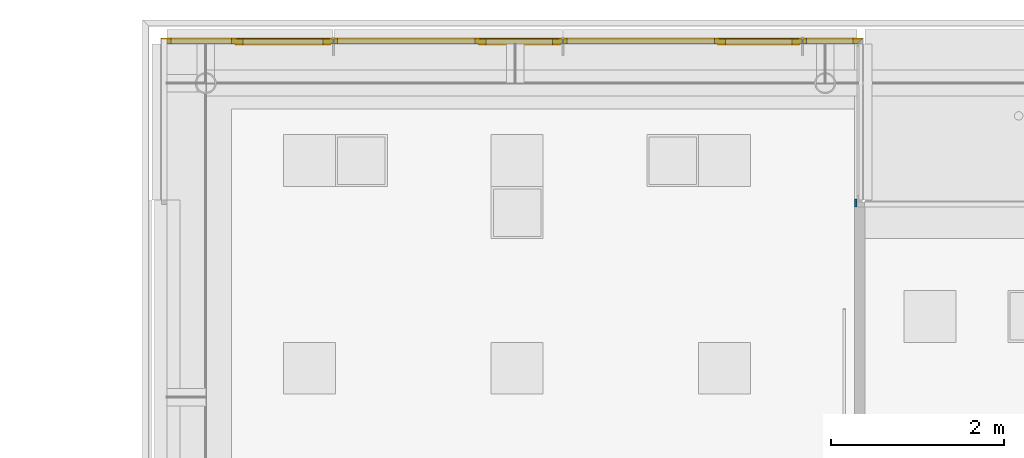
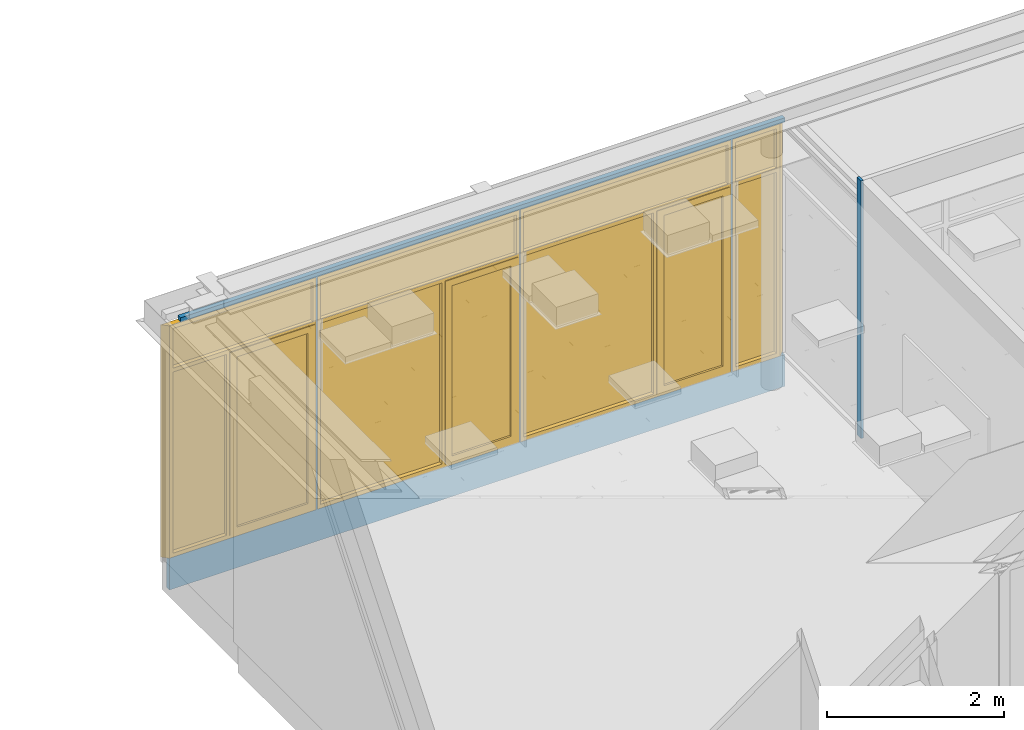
# One storey, part 80 of 347: 4 windows, 2 walls, 4 openings.
"""IFC2X3 building model written with IfcOpenShell, lengths in millimetres."""

from ifc_helpers import new_model, entity, si_unit, converted_unit, derived_unit, money_unit, direction, frame, origin_with_axes, place, context, subcontext, project, spatial, open_shell, faceted_brep, surface_model, material, type_object, element, fill, save


model = new_model("IFC2X3")

# Units and contexts
model_context = context("Model", 3, precision=0.01, world=origin_with_axes(), true_north=direction((0.0, 1.0)))
plan_context = context("Plan", 3, precision=0.01, world=origin_with_axes(), true_north=direction((0.0, 1.0)))
body_context = subcontext(model_context, "Body", "Model", "MODEL_VIEW")
ifc_project = project(units=[si_unit("LENGTHUNIT", "METRE", prefix="MILLI"), si_unit("AREAUNIT", "SQUARE_METRE"), si_unit("VOLUMEUNIT", "CUBIC_METRE"), converted_unit("PLANEANGLEUNIT", "DEGREE", entity("IfcPlaneAngleMeasure", 0.0174532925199), si_unit("PLANEANGLEUNIT", "RADIAN"), dimensions=[0, 0, 0, 0, 0, 0, 0]), money_unit("EUR"), converted_unit("TIMEUNIT", "Year", entity("IfcTimeMeasure", 31556926.0), si_unit("TIMEUNIT", "SECOND"), dimensions=[0, 0, 1, 0, 0, 0, 0]), si_unit("MASSUNIT", "GRAM", prefix="KILO"), si_unit("THERMODYNAMICTEMPERATUREUNIT", "DEGREE_CELSIUS"), si_unit("LUMINOUSINTENSITYUNIT", "LUMEN"), si_unit("ENERGYUNIT", "JOULE", prefix="MEGA"), derived_unit("THERMALCONDUCTANCEUNIT", [(si_unit("POWERUNIT", "WATT"), 1), (si_unit("LENGTHUNIT", "METRE"), -1), (si_unit("THERMODYNAMICTEMPERATUREUNIT", "KELVIN"), -1)]), derived_unit("SPECIFICHEATCAPACITYUNIT", [(si_unit("ENERGYUNIT", "JOULE"), 1), (si_unit("MASSUNIT", "GRAM", prefix="KILO"), -1), (si_unit("THERMODYNAMICTEMPERATUREUNIT", "KELVIN"), -1)]), derived_unit("MASSDENSITYUNIT", [(si_unit("MASSUNIT", "GRAM", prefix="KILO"), 1), (si_unit("VOLUMEUNIT", "CUBIC_METRE"), -1)])], contexts=[model_context, plan_context])

# Site, building, storey
site_placement = place(None, origin_with_axes())
site = spatial("IfcSite", under=ifc_project, at=site_placement, Name="Site", CompositionType="ELEMENT")
building_placement = place(site_placement, origin_with_axes())
building = spatial("IfcBuilding", under=site, at=building_placement, Name="Naam gebouw", CompositionType="ELEMENT")
storey_placement = place(building_placement, origin_with_axes())
storey = spatial("IfcBuildingStorey", under=building, at=storey_placement, Name="begane grond", CompositionType="ELEMENT", Elevation=0.0)

# Wall, openings, windows
ifc_material_1 = material(Name="31 pui/kozijn")
wall_type_1 = type_object("IfcWallType", Name="31 pui/kozijn 62", PredefinedType="NOTDEFINED")
wall_1_placement = place(storey_placement, frame((32108.0032564, 47036.9999775, -450.0), z_axis=(0.0, 0.0, 1.0), x_axis=(-1.0, 0.0, 0.0)))
wall_1 = element("IfcWall", 1, at=wall_1_placement, inside=storey, type_object=wall_type_1, material=ifc_material_1, Name="21_21 betonwand", context=body_context, shape_type="Brep", body=[
    faceted_brep([(0.0, 0.0, 3650.0), (625.50325641, 0.0, 3650.0), (625.50325641, -62.0, 3650.0), (-62.0, -62.0, 3650.0), (-62.0, 0.0, 3650.0), (-62.0, 0.0, 3710.0), (7833.00325641, 0.0, 3710.0), (7833.00325948, 0.0, 3650.0), (6063.50325641, 0.0, 3650.0), (6063.50325641, 0.0, 440.0), (7983.00325641, 0.0, 440.0), (7983.00325641, 0.0, 0.0), (-62.0, 0.0, 0.0), (-62.0, 0.0, 440.0), (0.0, 0.0, 440.0), (625.50325641, 0.0, 440.0), (6048.50325641, 0.0, 440.0), (6048.50325641, 0.0, 3650.0), (3408.50325641, 0.0, 3650.0), (3408.50325641, 0.0, 440.0), (640.50325641, 0.0, 440.0), (3393.50325641, 0.0, 440.0), (3393.50325641, 0.0, 3650.0), (640.50325641, 0.0, 3650.0), (625.50325641, -62.0, 440.0), (-62.0, -62.0, 440.0), (-62.0, -62.0, 0.0), (7983.00325641, -62.0, 0.0), (7983.00326044, -62.0, 440.0), (6063.50325641, -62.0, 440.0), (6063.50325641, -62.0, 3650.0), (7833.00325948, -62.0, 3650.0), (7833.00325641, -62.0, 3710.0), (-62.0, -62.0, 3710.0), (6048.50325641, -62.0, 440.0), (3408.50325641, -62.0, 440.0), (3408.50325641, -62.0, 3650.0), (6048.50325641, -62.0, 3650.0), (3393.50325641, -62.0, 3650.0), (3393.50325641, -62.0, 440.0), (640.50325641, -62.0, 440.0), (640.50325641, -62.0, 3650.0)], [[[0, 1, 2, 3, 4]], [[1, 0, 4, 5, 6, 7, 8, 9, 10, 11, 12, 13, 14, 15], [16, 17, 18, 19], [20, 21, 22, 23]], [[24, 2, 1, 15]], [[24, 25, 26, 27, 28, 29, 30, 31, 32, 33, 3, 2], [34, 35, 36, 37], [38, 39, 40, 41]], [[4, 3, 33, 5]], [[32, 6, 5, 33]], [[31, 7, 6, 32]], [[31, 30, 8, 7]], [[30, 29, 9, 8]], [[29, 28, 10, 9]], [[10, 28, 27, 11]], [[12, 11, 27, 26]], [[25, 13, 12, 26]], [[25, 24, 15, 14, 13]], [[34, 37, 17, 16]], [[37, 36, 18, 17]], [[36, 35, 19, 18]], [[35, 34, 16, 19]], [[20, 40, 39, 21]], [[21, 39, 38, 22]], [[22, 38, 41, 23]], [[23, 41, 40, 20]]]),
])
opening_1_placement = place(wall_1_placement, frame((7023.25325641, 0.0, 440.0), z_axis=(0.0, 0.0, 1.0), x_axis=(1.0, 0.0, 0.0)))
opening_1 = element("IfcOpeningElement", 2, at=opening_1_placement, cuts=wall_1, Name="32_merk-AN5", context=body_context, shape_type="Brep", body=[
    faceted_brep([(1021.75, -61.999999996, 3210.0), (1021.75, -134.0, 3210.0), (1021.75, -134.0, 0.0), (1021.75, -61.999999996, 0.0), (897.749999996, 62.0, 3210.0), (-959.75, 62.0, 3210.0), (-959.75, -134.0, 3210.0), (-959.75, -134.0, 0.0), (-959.75, 62.0, 0.0), (897.749999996, 62.0, 0.0)], [[[0, 1, 2, 3]], [[4, 5, 6, 1, 0]], [[2, 1, 6, 7]], [[8, 9, 3, 2, 7]], [[4, 0, 3, 9]], [[9, 8, 5, 4]], [[5, 8, 7, 6]]]),
])
opening_2_placement = place(wall_1_placement, frame((4728.50325641, 0.0, 440.0), z_axis=(0.0, 0.0, 1.0), x_axis=(1.0, 0.0, 0.0)))
opening_2 = element("IfcOpeningElement", 3, at=opening_2_placement, cuts=wall_1, Name="32_merk-AN4", context=body_context, shape_type="Brep", body=[
    faceted_brep([(1320.0, 62.0, 0.0), (1320.0, 62.0, 3210.0), (1320.0, -134.0, 3210.0), (1320.0, -134.0, 0.0), (-1320.0, 62.0, 0.0), (-1320.0, 62.0, 3210.0), (-1320.0, -134.0, 3210.0), (-1320.0, -134.0, 0.0)], [[[0, 1, 2, 3]], [[0, 4, 5, 1]], [[1, 5, 6, 2]], [[3, 2, 6, 7]], [[4, 0, 3, 7]], [[5, 4, 7, 6]]]),
])
opening_3_placement = place(wall_1_placement, frame((2017.00325641, 0.0, 440.0), z_axis=(0.0, 0.0, 1.0), x_axis=(1.0, 0.0, 0.0)))
opening_3 = element("IfcOpeningElement", 4, at=opening_3_placement, cuts=wall_1, Name="32_merk-AN3", context=body_context, shape_type="Brep", body=[
    faceted_brep([(1376.5, 62.0, 0.0), (1376.5, 62.0, 3210.0), (1376.5, -134.0, 3210.0), (1376.5, -134.0, 0.0), (-1376.5, 62.0, 0.0), (-1376.5, 62.0, 3210.0), (-1376.5, -134.0, 3210.0), (-1376.5, -134.0, 0.0)], [[[0, 1, 2, 3]], [[0, 4, 5, 1]], [[1, 5, 6, 2]], [[3, 2, 6, 7]], [[4, 0, 3, 7]], [[5, 4, 7, 6]]]),
])
opening_4_placement = place(wall_1_placement, frame((312.751628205, 0.0, 440.0), z_axis=(0.0, 0.0, 1.0), x_axis=(1.0, 0.0, 0.0)))
opening_4 = element("IfcOpeningElement", 5, at=opening_4_placement, cuts=wall_1, Name="32_merk-AN2", context=body_context, shape_type="Brep", body=[
    faceted_brep([(312.751628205, 62.0, 0.0), (312.751628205, 62.0, 3210.0), (312.751628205, -134.0, 3210.0), (312.751628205, -134.0, 0.0), (-250.751628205, 62.0, 0.0), (-250.751628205, 62.0, 3210.0), (-374.751628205, -62.0, 3210.0), (-374.751628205, -134.0, 3210.0), (-374.751628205, -134.0, 0.0), (-374.751628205, -62.0, 0.0)], [[[0, 1, 2, 3]], [[0, 4, 5, 1]], [[1, 5, 6, 7, 2]], [[3, 2, 7, 8]], [[4, 0, 3, 8, 9]], [[5, 4, 9, 6]], [[9, 8, 7, 6]]]),
])
window_style_1 = type_object("IfcWindowStyle", Name="Rmeerkeuze 25", ConstructionType="NOTDEFINED", OperationType="TRIPLE_PANEL_TOP", ParameterTakesPrecedence=False, Sizeable=False)
window_1_placement = place(opening_1_placement, frame((-959.75, 0.0, 0.0), z_axis=(0.0, 0.0, 1.0), x_axis=(1.0, 0.0, 0.0)))
window_1 = element("IfcWindow", 6, at=window_1_placement, inside=storey, type_object=window_style_1, Name="32_merk-AN5", ObjectType="WINDOW", OverallHeight=3210.0, OverallWidth=1919.5, context=body_context, shape_type="SurfaceModel", body=[
    faceted_brep([(24.0, 0.0, 54.0), (0.0, 0.0, 54.0), (0.0, 0.0, 3156.0), (39.0, 0.0, 3156.0), (39.0, 0.0, 2610.0), (39.0, 0.0, 2571.0), (24.0, 0.0, 2571.0), (24.0, -62.0, 54.0), (39.0, -62.0, 54.0), (39.0, -72.0, 54.0), (0.0, -72.0, 54.0), (0.0, -72.0, 3156.0), (39.0, -72.0, 3156.0), (39.0, -72.0, 2610.0), (39.0, -62.0, 2571.0), (39.0, -72.0, 2556.0), (39.0, -62.0, 2556.0), (24.0, -62.0, 2571.0)], [[[0, 1, 2, 3, 4, 5, 6]], [[7, 8, 9, 10, 1, 0]], [[2, 1, 10, 11]], [[3, 2, 11, 12]], [[4, 3, 12, 13]], [[14, 5, 4, 13, 15, 16]], [[14, 17, 6, 5]], [[6, 17, 7, 0]], [[16, 8, 7, 17, 14]], [[16, 15, 9, 8]], [[13, 12, 11, 10, 9, 15]]]),
    faceted_brep([(1115.5, -62.0, 2556.0), (1115.5, -72.0, 2556.0), (1169.5, -72.0, 2556.0), (1169.5, 0.0, 2556.0), (1130.5, 0.0, 2556.0), (1130.5, -62.0, 2556.0), (1115.5, -62.0, 54.0), (1115.5, -72.0, 54.0), (1169.5, -72.0, 54.0), (1169.5, 0.0, 54.0), (1130.5, 0.0, 54.0), (1130.5, -62.0, 54.0)], [[[0, 1, 2, 3, 4, 5]], [[6, 7, 1, 0]], [[8, 2, 1, 7]], [[9, 3, 2, 8]], [[4, 3, 9, 10]], [[10, 11, 5, 4]], [[5, 11, 6, 0]], [[11, 10, 9, 8, 7, 6]]]),
    faceted_brep([(1130.5, 0.0, 2571.0), (39.0, 0.0, 2571.0), (39.0, 0.0, 2610.0), (1870.5, 0.0, 2610.0), (1870.5, 0.0, 2556.0), (1169.5, 0.0, 2556.0), (1130.5, 0.0, 2556.0), (1130.5, -62.0, 2571.0), (39.0, -62.0, 2571.0), (39.0, -62.0, 2556.0), (39.0, -72.0, 2556.0), (39.0, -72.0, 2610.0), (1870.5, -72.0, 2610.0), (1870.5, -72.0, 2556.0), (1169.5, -72.0, 2556.0), (1130.5, -62.0, 2556.0), (1115.5, -72.0, 2556.0), (1115.5, -62.0, 2556.0)], [[[0, 1, 2, 3, 4, 5, 6]], [[0, 7, 8, 1]], [[8, 9, 10, 11, 2, 1]], [[3, 2, 11, 12]], [[4, 3, 12, 13]], [[5, 4, 13, 14]], [[15, 6, 5, 14, 16, 17]], [[6, 15, 7, 0]], [[17, 9, 8, 7, 15]], [[17, 16, 10, 9]], [[10, 16, 14, 13, 12, 11]]]),
    faceted_brep([(1115.5, -62.0, 54.0), (1115.5, -72.0, 54.0), (1169.5, -72.0, 54.0), (1169.5, 0.0, 54.0), (1130.5, 0.0, 54.0), (1130.5, -62.0, 54.0), (39.0, -62.0, 54.0), (39.0, -72.0, 54.0), (0.0, -72.0, 54.0), (0.0, -72.0, 0.0), (1991.5, -72.0, 0.0), (1991.5, -72.0, 54.0), (1870.5, -72.0, 54.0), (1870.5, 0.0, 54.0), (24.0, 0.0, 39.0), (1130.5, 0.0, 39.0), (1919.5, 0.0, 54.0), (1919.5, 0.0, 0.0), (0.0, 0.0, 0.0), (0.0, 0.0, 54.0), (24.0, 0.0, 54.0), (1130.5, -62.0, 39.0), (24.0, -62.0, 39.0), (24.0, -62.0, 54.0)], [[[0, 1, 2, 3, 4, 5]], [[6, 7, 1, 0]], [[8, 9, 10, 11, 12, 2, 1, 7]], [[13, 3, 2, 12]], [[14, 15, 4, 3, 13, 16, 17, 18, 19, 20]], [[15, 21, 5, 4]], [[5, 21, 22, 23, 6, 0]], [[23, 20, 19, 8, 7, 6]], [[19, 18, 9, 8]], [[18, 17, 10, 9]], [[16, 11, 10, 17]], [[11, 16, 13, 12]], [[14, 22, 21, 15]], [[23, 22, 14, 20]]]),
    faceted_brep([(1870.5, -72.0, 54.0), (1870.5, -72.0, 2556.0), (1870.5, 0.0, 2556.0), (1870.5, 0.0, 54.0), (1870.5, -72.0, 2610.0), (1991.5, -72.0, 54.0), (1991.5, -72.0, 3156.0), (1870.5, -72.0, 3156.0), (1870.5, 0.0, 2610.0), (1919.5, 0.0, 54.0), (1870.5, 0.0, 3156.0), (1919.5, 0.0, 3156.0)], [[[0, 1, 2, 3]], [[4, 1, 0, 5, 6, 7]], [[1, 4, 8, 2]], [[9, 3, 2, 8, 10, 11]], [[3, 9, 5, 0]], [[5, 9, 11, 6]], [[11, 10, 7, 6]], [[4, 7, 10, 8]]]),
    faceted_brep([(0.0, 0.0, 3156.0), (39.0, 0.0, 3156.0), (39.0, -72.0, 3156.0), (0.0, -72.0, 3156.0), (0.0, 0.0, 3210.0), (1919.5, 0.0, 3210.0), (1919.5, 0.0, 3156.0), (1870.5, 0.0, 3156.0), (1870.5, -72.0, 3156.0), (1991.5, -72.0, 3156.0), (1991.5, -72.0, 3210.0), (0.0, -72.0, 3210.0)], [[[0, 1, 2, 3]], [[1, 0, 4, 5, 6, 7]], [[8, 2, 1, 7]], [[3, 2, 8, 9, 10, 11]], [[4, 0, 3, 11]], [[4, 11, 10, 5]], [[10, 9, 6, 5]], [[7, 6, 9, 8]]]),
    surface_model("IfcShellBasedSurfaceModel", [(39.0, -72.0, 2610.0), (1870.5, -72.0, 2610.0), (1870.5, -72.0, 3156.0), (39.0, -72.0, 3156.0)], [open_shell([[[0, 1, 2, 3]]])]),
    surface_model("IfcShellBasedSurfaceModel", [(39.0, -52.0, 2610.0), (39.0, -52.0, 3156.0), (1870.5, -52.0, 3156.0), (1870.5, -52.0, 2610.0)], [open_shell([[[0, 1, 2, 3]]])]),
    faceted_brep([(114.0, -62.0, 2481.0), (114.0, 10.0, 2481.0), (24.0, 10.0, 2481.0), (24.0, -62.0, 2481.0), (114.0, -62.0, 129.0), (114.0, 10.0, 129.0), (24.0, 10.0, 129.0), (24.0, -62.0, 129.0)], [[[0, 1, 2, 3]], [[4, 5, 1, 0]], [[1, 5, 6, 2]], [[3, 2, 6, 7]], [[0, 3, 7, 4]], [[7, 6, 5, 4]]]),
    faceted_brep([(1040.5, -62.0, 129.0), (1040.5, 10.0, 129.0), (1130.5, 10.0, 129.0), (1130.5, -62.0, 129.0), (1040.5, -62.0, 2481.0), (1040.5, 10.0, 2481.0), (1130.5, 10.0, 2481.0), (1130.5, -62.0, 2481.0)], [[[0, 1, 2, 3]], [[4, 5, 1, 0]], [[1, 5, 6, 2]], [[3, 2, 6, 7]], [[0, 3, 7, 4]], [[7, 6, 5, 4]]]),
    faceted_brep([(1130.5, -62.0, 39.0), (1130.5, 10.0, 39.0), (1130.5, 10.0, 129.0), (1130.5, -62.0, 129.0), (24.0, -62.0, 39.0), (24.0, 10.0, 39.0), (24.0, 10.0, 129.0), (114.0, 10.0, 129.0), (1040.5, 10.0, 129.0), (1040.5, -62.0, 129.0), (114.0, -62.0, 129.0), (24.0, -62.0, 129.0)], [[[0, 1, 2, 3]], [[4, 5, 1, 0]], [[1, 5, 6, 7, 8, 2]], [[3, 2, 8, 9]], [[0, 3, 9, 10, 11, 4]], [[11, 6, 5, 4]], [[10, 7, 6, 11]], [[9, 8, 7, 10]]]),
    faceted_brep([(24.0, -62.0, 2571.0), (24.0, 10.0, 2571.0), (24.0, 10.0, 2481.0), (24.0, -62.0, 2481.0), (1130.5, -62.0, 2571.0), (1130.5, 10.0, 2571.0), (1130.5, 10.0, 2481.0), (1040.5, 10.0, 2481.0), (114.0, 10.0, 2481.0), (114.0, -62.0, 2481.0), (1040.5, -62.0, 2481.0), (1130.5, -62.0, 2481.0)], [[[0, 1, 2, 3]], [[4, 5, 1, 0]], [[1, 5, 6, 7, 8, 2]], [[3, 2, 8, 9]], [[0, 3, 9, 10, 11, 4]], [[11, 6, 5, 4]], [[10, 7, 6, 11]], [[9, 8, 7, 10]]]),
    surface_model("IfcShellBasedSurfaceModel", [(114.0, -36.0, 129.0), (1040.5, -36.0, 129.0), (1040.5, -36.0, 2481.0), (114.0, -36.0, 2481.0)], [open_shell([[[0, 1, 2, 3]]])]),
    surface_model("IfcShellBasedSurfaceModel", [(114.0, -16.0, 129.0), (114.0, -16.0, 2481.0), (1040.5, -16.0, 2481.0), (1040.5, -16.0, 129.0)], [open_shell([[[0, 1, 2, 3]]])]),
    surface_model("IfcShellBasedSurfaceModel", [(1169.5, -72.0, 54.0), (1870.5, -72.0, 54.0), (1870.5, -72.0, 2556.0), (1169.5, -72.0, 2556.0)], [open_shell([[[0, 1, 2, 3]]])]),
    surface_model("IfcShellBasedSurfaceModel", [(1169.5, -52.0, 54.0), (1169.5, -52.0, 2556.0), (1870.5, -52.0, 2556.0), (1870.5, -52.0, 54.0)], [open_shell([[[0, 1, 2, 3]]])]),
])
fill(opening_1, window_1)
window_style_2 = type_object("IfcWindowStyle", Name="Rmeerkeuze 25", ConstructionType="NOTDEFINED", OperationType="TRIPLE_PANEL_TOP", ParameterTakesPrecedence=False, Sizeable=False)
window_2_placement = place(opening_2_placement, frame((-1320.0, 0.0, 0.0), z_axis=(0.0, 0.0, 1.0), x_axis=(1.0, 0.0, 0.0)))
window_2 = element("IfcWindow", 7, at=window_2_placement, inside=storey, type_object=window_style_2, Name="32_merk-AN4", ObjectType="WINDOW", OverallHeight=3210.0, OverallWidth=2640.0, context=body_context, shape_type="SurfaceModel", body=[
    faceted_brep([(24.0, 0.0, 54.0), (0.0, 0.0, 54.0), (0.0, 0.0, 3156.0), (39.0, 0.0, 3156.0), (39.0, 0.0, 2610.0), (39.0, 0.0, 2571.0), (24.0, 0.0, 2571.0), (24.0, -62.0, 54.0), (39.0, -62.0, 54.0), (39.0, -72.0, 54.0), (0.0, -72.0, 54.0), (0.0, -72.0, 3156.0), (39.0, -72.0, 3156.0), (39.0, -72.0, 2610.0), (39.0, -62.0, 2571.0), (39.0, -72.0, 2556.0), (39.0, -62.0, 2556.0), (24.0, -62.0, 2571.0)], [[[0, 1, 2, 3, 4, 5, 6]], [[7, 8, 9, 10, 1, 0]], [[2, 1, 10, 11]], [[3, 2, 11, 12]], [[4, 3, 12, 13]], [[14, 5, 4, 13, 15, 16]], [[14, 17, 6, 5]], [[6, 17, 7, 0]], [[16, 8, 7, 17, 14]], [[16, 15, 9, 8]], [[13, 12, 11, 10, 9, 15]]]),
    faceted_brep([(958.0, -62.0, 2556.0), (958.0, -72.0, 2556.0), (1012.0, -72.0, 2556.0), (1012.0, 0.0, 2556.0), (973.0, 0.0, 2556.0), (973.0, -62.0, 2556.0), (958.0, -62.0, 54.0), (958.0, -72.0, 54.0), (1012.0, -72.0, 54.0), (1012.0, 0.0, 54.0), (973.0, 0.0, 54.0), (973.0, -62.0, 54.0)], [[[0, 1, 2, 3, 4, 5]], [[6, 7, 1, 0]], [[8, 2, 1, 7]], [[9, 3, 2, 8]], [[4, 3, 9, 10]], [[10, 11, 5, 4]], [[5, 11, 6, 0]], [[11, 10, 9, 8, 7, 6]]]),
    faceted_brep([(973.0, 0.0, 2571.0), (39.0, 0.0, 2571.0), (39.0, 0.0, 2610.0), (2601.0, 0.0, 2610.0), (2601.0, 0.0, 2556.0), (1012.0, 0.0, 2556.0), (973.0, 0.0, 2556.0), (973.0, -62.0, 2571.0), (39.0, -62.0, 2571.0), (39.0, -62.0, 2556.0), (39.0, -72.0, 2556.0), (39.0, -72.0, 2610.0), (2601.0, -72.0, 2610.0), (2601.0, -72.0, 2556.0), (1012.0, -72.0, 2556.0), (973.0, -62.0, 2556.0), (958.0, -72.0, 2556.0), (958.0, -62.0, 2556.0)], [[[0, 1, 2, 3, 4, 5, 6]], [[0, 7, 8, 1]], [[8, 9, 10, 11, 2, 1]], [[3, 2, 11, 12]], [[4, 3, 12, 13]], [[5, 4, 13, 14]], [[15, 6, 5, 14, 16, 17]], [[6, 15, 7, 0]], [[17, 9, 8, 7, 15]], [[17, 16, 10, 9]], [[10, 16, 14, 13, 12, 11]]]),
    faceted_brep([(958.0, -62.0, 54.0), (958.0, -72.0, 54.0), (1012.0, -72.0, 54.0), (1012.0, 0.0, 54.0), (973.0, 0.0, 54.0), (973.0, -62.0, 54.0), (39.0, -62.0, 54.0), (39.0, -72.0, 54.0), (0.0, -72.0, 54.0), (0.0, -72.0, 0.0), (2640.0, -72.0, 0.0), (2640.0, -72.0, 54.0), (2601.0, -72.0, 54.0), (2601.0, 0.0, 54.0), (24.0, 0.0, 39.0), (973.0, 0.0, 39.0), (2640.0, 0.0, 54.0), (2640.0, 0.0, 0.0), (0.0, 0.0, 0.0), (0.0, 0.0, 54.0), (24.0, 0.0, 54.0), (973.0, -62.0, 39.0), (24.0, -62.0, 39.0), (24.0, -62.0, 54.0)], [[[0, 1, 2, 3, 4, 5]], [[6, 7, 1, 0]], [[8, 9, 10, 11, 12, 2, 1, 7]], [[13, 3, 2, 12]], [[14, 15, 4, 3, 13, 16, 17, 18, 19, 20]], [[15, 21, 5, 4]], [[5, 21, 22, 23, 6, 0]], [[23, 20, 19, 8, 7, 6]], [[19, 18, 9, 8]], [[18, 17, 10, 9]], [[17, 16, 11, 10]], [[16, 13, 12, 11]], [[14, 22, 21, 15]], [[23, 22, 14, 20]]]),
    faceted_brep([(2601.0, -72.0, 54.0), (2601.0, 0.0, 54.0), (2640.0, 0.0, 54.0), (2640.0, -72.0, 54.0), (2601.0, -72.0, 2556.0), (2601.0, 0.0, 2556.0), (2601.0, 0.0, 2610.0), (2601.0, 0.0, 3156.0), (2640.0, 0.0, 3156.0), (2640.0, -72.0, 3156.0), (2601.0, -72.0, 3156.0), (2601.0, -72.0, 2610.0)], [[[0, 1, 2, 3]], [[4, 5, 1, 0]], [[1, 5, 6, 7, 8, 2]], [[3, 2, 8, 9]], [[0, 3, 9, 10, 11, 4]], [[11, 6, 5, 4]], [[10, 7, 6, 11]], [[9, 8, 7, 10]]]),
    faceted_brep([(2601.0, -72.0, 3156.0), (2601.0, 0.0, 3156.0), (2640.0, 0.0, 3156.0), (2640.0, -72.0, 3156.0), (39.0, -72.0, 3156.0), (39.0, 0.0, 3156.0), (0.0, 0.0, 3156.0), (0.0, 0.0, 3210.0), (2640.0, 0.0, 3210.0), (2640.0, -72.0, 3210.0), (0.0, -72.0, 3210.0), (0.0, -72.0, 3156.0)], [[[0, 1, 2, 3]], [[4, 5, 1, 0]], [[1, 5, 6, 7, 8, 2]], [[3, 2, 8, 9]], [[0, 3, 9, 10, 11, 4]], [[11, 6, 5, 4]], [[10, 7, 6, 11]], [[9, 8, 7, 10]]]),
    surface_model("IfcShellBasedSurfaceModel", [(39.0, -72.0, 2610.0), (2601.0, -72.0, 2610.0), (2601.0, -72.0, 3156.0), (39.0, -72.0, 3156.0)], [open_shell([[[0, 1, 2, 3]]])]),
    surface_model("IfcShellBasedSurfaceModel", [(39.0, -52.0, 2610.0), (39.0, -52.0, 3156.0), (2601.0, -52.0, 3156.0), (2601.0, -52.0, 2610.0)], [open_shell([[[0, 1, 2, 3]]])]),
    faceted_brep([(114.0, -62.0, 2481.0), (114.0, 10.0, 2481.0), (24.0, 10.0, 2481.0), (24.0, -62.0, 2481.0), (114.0, -62.0, 129.0), (114.0, 10.0, 129.0), (24.0, 10.0, 129.0), (24.0, -62.0, 129.0)], [[[0, 1, 2, 3]], [[4, 5, 1, 0]], [[1, 5, 6, 2]], [[3, 2, 6, 7]], [[0, 3, 7, 4]], [[7, 6, 5, 4]]]),
    faceted_brep([(883.0, -62.0, 129.0), (883.0, 10.0, 129.0), (973.0, 10.0, 129.0), (973.0, -62.0, 129.0), (883.0, -62.0, 2481.0), (883.0, 10.0, 2481.0), (973.0, 10.0, 2481.0), (973.0, -62.0, 2481.0)], [[[0, 1, 2, 3]], [[4, 5, 1, 0]], [[1, 5, 6, 2]], [[3, 2, 6, 7]], [[0, 3, 7, 4]], [[7, 6, 5, 4]]]),
    faceted_brep([(973.0, -62.0, 39.0), (973.0, 10.0, 39.0), (973.0, 10.0, 129.0), (973.0, -62.0, 129.0), (24.0, -62.0, 39.0), (24.0, 10.0, 39.0), (24.0, 10.0, 129.0), (114.0, 10.0, 129.0), (883.0, 10.0, 129.0), (883.0, -62.0, 129.0), (114.0, -62.0, 129.0), (24.0, -62.0, 129.0)], [[[0, 1, 2, 3]], [[4, 5, 1, 0]], [[1, 5, 6, 7, 8, 2]], [[3, 2, 8, 9]], [[0, 3, 9, 10, 11, 4]], [[11, 6, 5, 4]], [[10, 7, 6, 11]], [[9, 8, 7, 10]]]),
    faceted_brep([(24.0, -62.0, 2571.0), (24.0, 10.0, 2571.0), (24.0, 10.0, 2481.0), (24.0, -62.0, 2481.0), (973.0, -62.0, 2571.0), (973.0, 10.0, 2571.0), (973.0, 10.0, 2481.0), (883.0, 10.0, 2481.0), (114.0, 10.0, 2481.0), (114.0, -62.0, 2481.0), (883.0, -62.0, 2481.0), (973.0, -62.0, 2481.0)], [[[0, 1, 2, 3]], [[4, 5, 1, 0]], [[1, 5, 6, 7, 8, 2]], [[3, 2, 8, 9]], [[0, 3, 9, 10, 11, 4]], [[11, 6, 5, 4]], [[10, 7, 6, 11]], [[9, 8, 7, 10]]]),
    surface_model("IfcShellBasedSurfaceModel", [(114.0, -36.0, 129.0), (883.0, -36.0, 129.0), (883.0, -36.0, 2481.0), (114.0, -36.0, 2481.0)], [open_shell([[[0, 1, 2, 3]]])]),
    surface_model("IfcShellBasedSurfaceModel", [(114.0, -16.0, 129.0), (114.0, -16.0, 2481.0), (883.0, -16.0, 2481.0), (883.0, -16.0, 129.0)], [open_shell([[[0, 1, 2, 3]]])]),
    surface_model("IfcShellBasedSurfaceModel", [(1012.0, -72.0, 54.0), (2601.0, -72.0, 54.0), (2601.0, -72.0, 2556.0), (1012.0, -72.0, 2556.0)], [open_shell([[[0, 1, 2, 3]]])]),
    surface_model("IfcShellBasedSurfaceModel", [(1012.0, -52.0, 54.0), (1012.0, -52.0, 2556.0), (2601.0, -52.0, 2556.0), (2601.0, -52.0, 54.0)], [open_shell([[[0, 1, 2, 3]]])]),
])
fill(opening_2, window_2)
window_style_3 = type_object("IfcWindowStyle", Name="Rmeerkeuze 25", ConstructionType="NOTDEFINED", OperationType="TRIPLE_PANEL_TOP", ParameterTakesPrecedence=False, Sizeable=False)
window_3_placement = place(opening_3_placement, frame((-1376.5, 0.0, 0.0), z_axis=(0.0, 0.0, 1.0), x_axis=(1.0, 0.0, 0.0)))
window_3 = element("IfcWindow", 8, at=window_3_placement, inside=storey, type_object=window_style_3, Name="32_merk-AN3", ObjectType="WINDOW", OverallHeight=3210.0, OverallWidth=2753.0, context=body_context, shape_type="SurfaceModel", body=[
    faceted_brep([(24.0, 0.0, 54.0), (0.0, 0.0, 54.0), (0.0, 0.0, 3156.0), (39.0, 0.0, 3156.0), (39.0, 0.0, 2610.0), (39.0, 0.0, 2571.0), (24.0, 0.0, 2571.0), (24.0, -62.0, 54.0), (39.0, -62.0, 54.0), (39.0, -72.0, 54.0), (0.0, -72.0, 54.0), (0.0, -72.0, 3156.0), (39.0, -72.0, 3156.0), (39.0, -72.0, 2610.0), (39.0, -62.0, 2571.0), (39.0, -72.0, 2556.0), (39.0, -62.0, 2556.0), (24.0, -62.0, 2571.0)], [[[0, 1, 2, 3, 4, 5, 6]], [[7, 8, 9, 10, 1, 0]], [[2, 1, 10, 11]], [[3, 2, 11, 12]], [[4, 3, 12, 13]], [[14, 5, 4, 13, 15, 16]], [[14, 17, 6, 5]], [[6, 17, 7, 0]], [[16, 8, 7, 17, 14]], [[16, 15, 9, 8]], [[13, 12, 11, 10, 9, 15]]]),
    faceted_brep([(958.0, -62.0, 2556.0), (958.0, -72.0, 2556.0), (1012.0, -72.0, 2556.0), (1012.0, 0.0, 2556.0), (973.0, 0.0, 2556.0), (973.0, -62.0, 2556.0), (958.0, -62.0, 54.0), (958.0, -72.0, 54.0), (1012.0, -72.0, 54.0), (1012.0, 0.0, 54.0), (973.0, 0.0, 54.0), (973.0, -62.0, 54.0)], [[[0, 1, 2, 3, 4, 5]], [[6, 7, 1, 0]], [[8, 2, 1, 7]], [[9, 3, 2, 8]], [[4, 3, 9, 10]], [[10, 11, 5, 4]], [[5, 11, 6, 0]], [[11, 10, 9, 8, 7, 6]]]),
    faceted_brep([(973.0, 0.0, 2571.0), (39.0, 0.0, 2571.0), (39.0, 0.0, 2610.0), (2714.0, 0.0, 2610.0), (2714.0, 0.0, 2556.0), (1012.0, 0.0, 2556.0), (973.0, 0.0, 2556.0), (973.0, -62.0, 2571.0), (39.0, -62.0, 2571.0), (39.0, -62.0, 2556.0), (39.0, -72.0, 2556.0), (39.0, -72.0, 2610.0), (2714.0, -72.0, 2610.0), (2714.0, -72.0, 2556.0), (1012.0, -72.0, 2556.0), (973.0, -62.0, 2556.0), (958.0, -72.0, 2556.0), (958.0, -62.0, 2556.0)], [[[0, 1, 2, 3, 4, 5, 6]], [[0, 7, 8, 1]], [[8, 9, 10, 11, 2, 1]], [[3, 2, 11, 12]], [[4, 3, 12, 13]], [[5, 4, 13, 14]], [[15, 6, 5, 14, 16, 17]], [[6, 15, 7, 0]], [[17, 9, 8, 7, 15]], [[17, 16, 10, 9]], [[10, 16, 14, 13, 12, 11]]]),
    faceted_brep([(958.0, -62.0, 54.0), (958.0, -72.0, 54.0), (1012.0, -72.0, 54.0), (1012.0, 0.0, 54.0), (973.0, 0.0, 54.0), (973.0, -62.0, 54.0), (39.0, -62.0, 54.0), (39.0, -72.0, 54.0), (0.0, -72.0, 54.0), (0.0, -72.0, 0.0), (2753.0, -72.0, 0.0), (2753.0, -72.0, 54.0), (2714.0, -72.0, 54.0), (2714.0, 0.0, 54.0), (24.0, 0.0, 39.0), (973.0, 0.0, 39.0), (2753.0, 0.0, 54.0), (2753.0, 0.0, 0.0), (0.0, 0.0, 0.0), (0.0, 0.0, 54.0), (24.0, 0.0, 54.0), (973.0, -62.0, 39.0), (24.0, -62.0, 39.0), (24.0, -62.0, 54.0)], [[[0, 1, 2, 3, 4, 5]], [[6, 7, 1, 0]], [[8, 9, 10, 11, 12, 2, 1, 7]], [[13, 3, 2, 12]], [[14, 15, 4, 3, 13, 16, 17, 18, 19, 20]], [[15, 21, 5, 4]], [[5, 21, 22, 23, 6, 0]], [[23, 20, 19, 8, 7, 6]], [[19, 18, 9, 8]], [[18, 17, 10, 9]], [[17, 16, 11, 10]], [[16, 13, 12, 11]], [[14, 22, 21, 15]], [[23, 22, 14, 20]]]),
    faceted_brep([(2714.0, -72.0, 54.0), (2714.0, 0.0, 54.0), (2753.0, 0.0, 54.0), (2753.0, -72.0, 54.0), (2714.0, -72.0, 2556.0), (2714.0, 0.0, 2556.0), (2714.0, 0.0, 2610.0), (2714.0, 0.0, 3156.0), (2753.0, 0.0, 3156.0), (2753.0, -72.0, 3156.0), (2714.0, -72.0, 3156.0), (2714.0, -72.0, 2610.0)], [[[0, 1, 2, 3]], [[4, 5, 1, 0]], [[1, 5, 6, 7, 8, 2]], [[3, 2, 8, 9]], [[0, 3, 9, 10, 11, 4]], [[11, 6, 5, 4]], [[10, 7, 6, 11]], [[9, 8, 7, 10]]]),
    faceted_brep([(2714.0, -72.0, 3156.0), (2714.0, 0.0, 3156.0), (2753.0, 0.0, 3156.0), (2753.0, -72.0, 3156.0), (39.0, -72.0, 3156.0), (39.0, 0.0, 3156.0), (0.0, 0.0, 3156.0), (0.0, 0.0, 3210.0), (2753.0, 0.0, 3210.0), (2753.0, -72.0, 3210.0), (0.0, -72.0, 3210.0), (0.0, -72.0, 3156.0)], [[[0, 1, 2, 3]], [[4, 5, 1, 0]], [[1, 5, 6, 7, 8, 2]], [[3, 2, 8, 9]], [[0, 3, 9, 10, 11, 4]], [[11, 6, 5, 4]], [[10, 7, 6, 11]], [[9, 8, 7, 10]]]),
    surface_model("IfcShellBasedSurfaceModel", [(39.0, -72.0, 2610.0), (2714.0, -72.0, 2610.0), (2714.0, -72.0, 3156.0), (39.0, -72.0, 3156.0)], [open_shell([[[0, 1, 2, 3]]])]),
    surface_model("IfcShellBasedSurfaceModel", [(39.0, -52.0, 2610.0), (39.0, -52.0, 3156.0), (2714.0, -52.0, 3156.0), (2714.0, -52.0, 2610.0)], [open_shell([[[0, 1, 2, 3]]])]),
    faceted_brep([(114.0, -62.0, 2481.0), (114.0, 10.0, 2481.0), (24.0, 10.0, 2481.0), (24.0, -62.0, 2481.0), (114.0, -62.0, 129.0), (114.0, 10.0, 129.0), (24.0, 10.0, 129.0), (24.0, -62.0, 129.0)], [[[0, 1, 2, 3]], [[4, 5, 1, 0]], [[1, 5, 6, 2]], [[3, 2, 6, 7]], [[0, 3, 7, 4]], [[7, 6, 5, 4]]]),
    faceted_brep([(883.0, -62.0, 129.0), (883.0, 10.0, 129.0), (973.0, 10.0, 129.0), (973.0, -62.0, 129.0), (883.0, -62.0, 2481.0), (883.0, 10.0, 2481.0), (973.0, 10.0, 2481.0), (973.0, -62.0, 2481.0)], [[[0, 1, 2, 3]], [[4, 5, 1, 0]], [[1, 5, 6, 2]], [[3, 2, 6, 7]], [[0, 3, 7, 4]], [[7, 6, 5, 4]]]),
    faceted_brep([(973.0, -62.0, 39.0), (973.0, 10.0, 39.0), (973.0, 10.0, 129.0), (973.0, -62.0, 129.0), (24.0, -62.0, 39.0), (24.0, 10.0, 39.0), (24.0, 10.0, 129.0), (114.0, 10.0, 129.0), (883.0, 10.0, 129.0), (883.0, -62.0, 129.0), (114.0, -62.0, 129.0), (24.0, -62.0, 129.0)], [[[0, 1, 2, 3]], [[4, 5, 1, 0]], [[1, 5, 6, 7, 8, 2]], [[3, 2, 8, 9]], [[0, 3, 9, 10, 11, 4]], [[11, 6, 5, 4]], [[10, 7, 6, 11]], [[9, 8, 7, 10]]]),
    faceted_brep([(24.0, -62.0, 2571.0), (24.0, 10.0, 2571.0), (24.0, 10.0, 2481.0), (24.0, -62.0, 2481.0), (973.0, -62.0, 2571.0), (973.0, 10.0, 2571.0), (973.0, 10.0, 2481.0), (883.0, 10.0, 2481.0), (114.0, 10.0, 2481.0), (114.0, -62.0, 2481.0), (883.0, -62.0, 2481.0), (973.0, -62.0, 2481.0)], [[[0, 1, 2, 3]], [[4, 5, 1, 0]], [[1, 5, 6, 7, 8, 2]], [[3, 2, 8, 9]], [[0, 3, 9, 10, 11, 4]], [[11, 6, 5, 4]], [[10, 7, 6, 11]], [[9, 8, 7, 10]]]),
    surface_model("IfcShellBasedSurfaceModel", [(114.0, -36.0, 129.0), (883.0, -36.0, 129.0), (883.0, -36.0, 2481.0), (114.0, -36.0, 2481.0)], [open_shell([[[0, 1, 2, 3]]])]),
    surface_model("IfcShellBasedSurfaceModel", [(114.0, -16.0, 129.0), (114.0, -16.0, 2481.0), (883.0, -16.0, 2481.0), (883.0, -16.0, 129.0)], [open_shell([[[0, 1, 2, 3]]])]),
    surface_model("IfcShellBasedSurfaceModel", [(1012.0, -72.0, 54.0), (2714.0, -72.0, 54.0), (2714.0, -72.0, 2556.0), (1012.0, -72.0, 2556.0)], [open_shell([[[0, 1, 2, 3]]])]),
    surface_model("IfcShellBasedSurfaceModel", [(1012.0, -52.0, 54.0), (1012.0, -52.0, 2556.0), (2714.0, -52.0, 2556.0), (2714.0, -52.0, 54.0)], [open_shell([[[0, 1, 2, 3]]])]),
])
fill(opening_3, window_3)
window_style_4 = type_object("IfcWindowStyle", Name="Rmeerkeuze 25", ConstructionType="NOTDEFINED", OperationType="DOUBLE_PANEL_HORIZONTAL", ParameterTakesPrecedence=False, Sizeable=False)
window_4_placement = place(opening_4_placement, frame((-312.751628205, 0.0, 0.0), z_axis=(0.0, 0.0, 1.0), x_axis=(1.0, 0.0, 0.0)))
window_4 = element("IfcWindow", 9, at=window_4_placement, inside=storey, type_object=window_style_4, Name="32_merk-AN2", ObjectType="WINDOW", OverallHeight=3210.0, OverallWidth=625.503, context=body_context, shape_type="SurfaceModel", body=[
    faceted_brep([(-72.0, -72.0, 54.0), (49.0, -72.0, 54.0), (49.0, -72.0, 2556.0), (49.0, -72.0, 2610.0), (49.0, -72.0, 3156.0), (-72.0, -72.0, 3156.0), (0.0, 0.0, 54.0), (49.0, 0.0, 54.0), (49.0, 0.0, 2556.0), (49.0, 0.0, 2610.0), (49.0, 0.0, 3156.0), (0.0, 0.0, 3156.0)], [[[0, 1, 2, 3, 4, 5]], [[0, 6, 7, 1]], [[2, 1, 7, 8]], [[3, 2, 8, 9]], [[4, 3, 9, 10]], [[5, 4, 10, 11]], [[6, 0, 5, 11]], [[6, 11, 10, 9, 8, 7]]]),
    faceted_brep([(586.50325641, -72.0, 54.0), (586.50325641, 0.0, 54.0), (625.50325641, 0.0, 54.0), (625.50325641, -72.0, 54.0), (586.50325641, -72.0, 2556.0), (586.50325641, 0.0, 2556.0), (586.50325641, 0.0, 2610.0), (586.50325641, 0.0, 3156.0), (625.50325641, 0.0, 3156.0), (625.50325641, -72.0, 3156.0), (586.50325641, -72.0, 3156.0), (586.50325641, -72.0, 2610.0)], [[[0, 1, 2, 3]], [[4, 5, 1, 0]], [[1, 5, 6, 7, 8, 2]], [[3, 2, 8, 9]], [[0, 3, 9, 10, 11, 4]], [[11, 6, 5, 4]], [[10, 7, 6, 11]], [[9, 8, 7, 10]]]),
    faceted_brep([(49.0, -72.0, 2610.0), (49.0, 0.0, 2610.0), (49.0, 0.0, 2556.0), (49.0, -72.0, 2556.0), (586.50325641, -72.0, 2610.0), (586.50325641, 0.0, 2610.0), (586.50325641, 0.0, 2556.0), (586.50325641, -72.0, 2556.0)], [[[0, 1, 2, 3]], [[4, 5, 1, 0]], [[1, 5, 6, 2]], [[3, 2, 6, 7]], [[0, 3, 7, 4]], [[7, 6, 5, 4]]]),
    faceted_brep([(0.0, 0.0, 0.0), (-72.0, -72.0, 0.0), (-72.0, -72.0, 54.0), (0.0, 0.0, 54.0), (625.50325641, 0.0, 0.0), (625.50325641, -72.0, 0.0), (625.50325641, -72.0, 54.0), (586.50325641, -72.0, 54.0), (49.0, -72.0, 54.0), (49.0, 0.0, 54.0), (586.50325641, 0.0, 54.0), (625.50325641, 0.0, 54.0)], [[[0, 1, 2, 3]], [[1, 0, 4, 5]], [[2, 1, 5, 6, 7, 8]], [[9, 3, 2, 8]], [[0, 3, 9, 10, 11, 4]], [[6, 5, 4, 11]], [[10, 7, 6, 11]], [[8, 7, 10, 9]]]),
    faceted_brep([(49.0, -72.0, 3156.0), (-72.0, -72.0, 3156.0), (0.0, 0.0, 3156.0), (49.0, 0.0, 3156.0), (586.50325641, -72.0, 3156.0), (625.50325641, -72.0, 3156.0), (625.50325641, -72.0, 3210.0), (-72.0, -72.0, 3210.0), (0.0, 0.0, 3210.0), (625.50325641, 0.0, 3210.0), (625.50325641, 0.0, 3156.0), (586.50325641, 0.0, 3156.0)], [[[0, 1, 2, 3]], [[1, 0, 4, 5, 6, 7]], [[1, 7, 8, 2]], [[3, 2, 8, 9, 10, 11]], [[4, 0, 3, 11]], [[5, 4, 11, 10]], [[6, 5, 10, 9]], [[8, 7, 6, 9]]]),
    surface_model("IfcShellBasedSurfaceModel", [(49.0, -72.0, 2610.0), (586.50325641, -72.0, 2610.0), (586.50325641, -72.0, 3156.0), (49.0, -72.0, 3156.0)], [open_shell([[[0, 1, 2, 3]]])]),
    surface_model("IfcShellBasedSurfaceModel", [(49.0, -52.0, 2610.0), (49.0, -52.0, 3156.0), (586.50325641, -52.0, 3156.0), (586.50325641, -52.0, 2610.0)], [open_shell([[[0, 1, 2, 3]]])]),
    surface_model("IfcShellBasedSurfaceModel", [(49.0, -72.0, 54.0), (586.50325641, -72.0, 54.0), (586.50325641, -72.0, 2556.0), (49.0, -72.0, 2556.0)], [open_shell([[[0, 1, 2, 3]]])]),
    surface_model("IfcShellBasedSurfaceModel", [(49.0, -52.0, 54.0), (49.0, -52.0, 2556.0), (586.50325641, -52.0, 2556.0), (586.50325641, -52.0, 54.0)], [open_shell([[[0, 1, 2, 3]]])]),
])
fill(opening_4, window_4)

# Wall
ifc_material_2 = material(Name="ALG - LICHTE SCHEIDINGSWAND")
wall_type_2 = type_object("IfcWallType", Name="ALG - LICHTE SCHEIDINGSWAND 33", PredefinedType="NOTDEFINED")
wall_2_placement = place(storey_placement, frame((32075.0, 45153.0, 0.0), z_axis=(0.0, 0.0, 1.0), x_axis=(0.0, 1.0, 0.0)))
element("IfcWall", 10, at=wall_2_placement, inside=storey, type_object=wall_type_2, material=ifc_material_2, Name="22_GF 125 ECO DGS/2.75.2A", context=body_context, shape_type="Brep", body=[
    faceted_brep([(0.0, -33.0, 3560.0), (92.0, -33.0, 3560.0), (92.0, 0.0, 3560.0), (0.0, 0.0, 3560.0), (0.0, -33.0, 0.0), (92.0, -33.0, 0.0), (92.0, 0.0, 0.0), (0.0, 0.0, 0.0)], [[[0, 1, 2, 3]], [[4, 5, 1, 0]], [[2, 1, 5, 6]], [[3, 2, 6, 7]], [[4, 0, 3, 7]], [[7, 6, 5, 4]]]),
])

save(model, "model.ifc")
